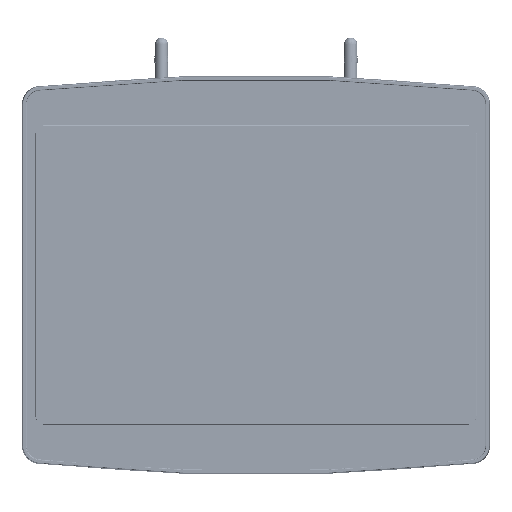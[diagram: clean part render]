
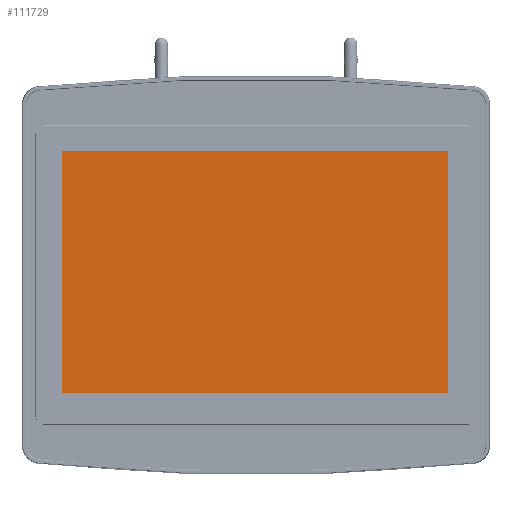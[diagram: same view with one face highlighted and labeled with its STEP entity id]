
A CAD part, top view. The second image highlights one B-rep face of the part: STEP entity #111729.
In plain terms, the highlighted planar face has unit normal (0, 0, 1).
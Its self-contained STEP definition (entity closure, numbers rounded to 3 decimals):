
#13635 = VERTEX_POINT ( 'NONE', #73868 ) ;
#31410 = EDGE_LOOP ( 'NONE', ( #285884, #54159, #141444, #255163 ) ) ;
#48428 = LINE ( 'NONE', #123762, #301725 ) ;
#50080 = DIRECTION ( 'NONE',  ( 0., -1., 0. ) ) ;
#54159 = ORIENTED_EDGE ( 'NONE', *, *, #237973, .T. ) ;
#55020 = CARTESIAN_POINT ( 'NONE',  ( 0., 0., 0. ) ) ;
#60523 = AXIS2_PLACEMENT_3D ( 'NONE', #55020, #218965, #216963 ) ;
#65057 = VECTOR ( 'NONE', #247224, 1000. ) ;
#72112 = DIRECTION ( 'NONE',  ( 0., 1., 0. ) ) ;
#73868 = CARTESIAN_POINT ( 'NONE',  ( 108.35, 69.865, 0. ) ) ;
#80169 = DIRECTION ( 'NONE',  ( -1., 0., 0. ) ) ;
#104350 = VERTEX_POINT ( 'NONE', #210004 ) ;
#110049 = VECTOR ( 'NONE', #80169, 1000. ) ;
#111729 = ADVANCED_FACE ( 'NONE', ( #270170 ), #165776, .T. ) ;
#114994 = EDGE_CURVE ( 'NONE', #104350, #168561, #48428, .T. ) ;
#119070 = VERTEX_POINT ( 'NONE', #229169 ) ;
#123762 = CARTESIAN_POINT ( 'NONE',  ( -109.35, 69.865, 0. ) ) ;
#128016 = EDGE_CURVE ( 'NONE', #13635, #104350, #132118, .T. ) ;
#132118 = LINE ( 'NONE', #142785, #110049 ) ;
#141444 = ORIENTED_EDGE ( 'NONE', *, *, #244623, .T. ) ;
#142785 = CARTESIAN_POINT ( 'NONE',  ( -109.35, 69.865, 0. ) ) ;
#165776 = PLANE ( 'NONE',  #60523 ) ;
#168561 = VERTEX_POINT ( 'NONE', #213743 ) ;
#201072 = CARTESIAN_POINT ( 'NONE',  ( -109.35, -66.535, 0. ) ) ;
#210004 = CARTESIAN_POINT ( 'NONE',  ( -109.35, 69.865, 0. ) ) ;
#213743 = CARTESIAN_POINT ( 'NONE',  ( -109.35, -66.535, 0. ) ) ;
#216963 = DIRECTION ( 'NONE',  ( 1., 0., 0. ) ) ;
#218965 = DIRECTION ( 'NONE',  ( 0., 0., 1. ) ) ;
#229169 = CARTESIAN_POINT ( 'NONE',  ( 108.35, -66.535, 0. ) ) ;
#235034 = CARTESIAN_POINT ( 'NONE',  ( 108.35, 69.865, 0. ) ) ;
#236276 = LINE ( 'NONE', #235034, #258034 ) ;
#237973 = EDGE_CURVE ( 'NONE', #168561, #119070, #303674, .T. ) ;
#244623 = EDGE_CURVE ( 'NONE', #119070, #13635, #236276, .T. ) ;
#247224 = DIRECTION ( 'NONE',  ( 1., 0., 0. ) ) ;
#255163 = ORIENTED_EDGE ( 'NONE', *, *, #128016, .T. ) ;
#258034 = VECTOR ( 'NONE', #72112, 1000. ) ;
#270170 = FACE_OUTER_BOUND ( 'NONE', #31410, .T. ) ;
#285884 = ORIENTED_EDGE ( 'NONE', *, *, #114994, .T. ) ;
#301725 = VECTOR ( 'NONE', #50080, 1000. ) ;
#303674 = LINE ( 'NONE', #201072, #65057 ) ;
